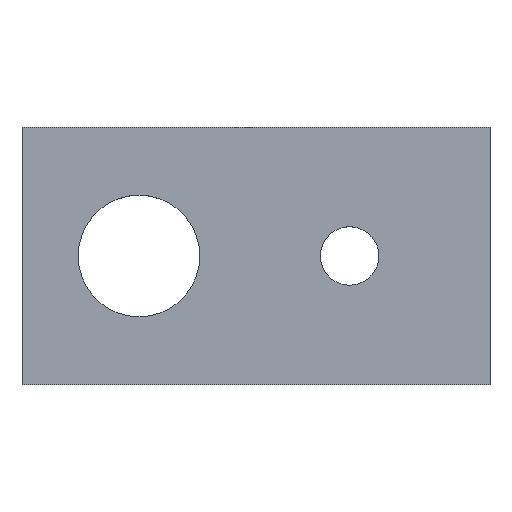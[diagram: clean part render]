
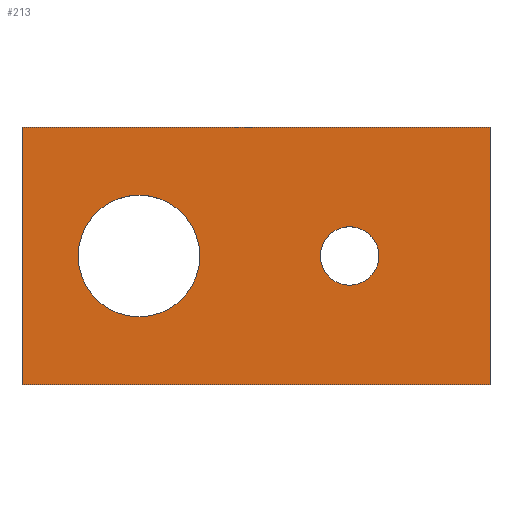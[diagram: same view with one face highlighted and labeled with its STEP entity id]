
A CAD part, top view. The second image highlights one B-rep face of the part: STEP entity #213.
In plain terms, the highlighted planar face has unit normal (0, 0, 1).
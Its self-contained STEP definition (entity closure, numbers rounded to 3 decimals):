
#24 = VERTEX_POINT('',#25);
#25 = CARTESIAN_POINT('',(0.,0.,3.));
#32 = PLANE('',#33);
#33 = AXIS2_PLACEMENT_3D('',#34,#35,#36);
#34 = CARTESIAN_POINT('',(0.,0.,0.));
#35 = DIRECTION('',(1.,0.,-0.));
#36 = DIRECTION('',(0.,0.,1.));
#44 = PLANE('',#45);
#45 = AXIS2_PLACEMENT_3D('',#46,#47,#48);
#46 = CARTESIAN_POINT('',(0.,0.,0.));
#47 = DIRECTION('',(-0.,1.,0.));
#48 = DIRECTION('',(0.,0.,1.));
#85 = VERTEX_POINT('',#86);
#86 = CARTESIAN_POINT('',(0.,22.,3.));
#100 = PLANE('',#101);
#101 = AXIS2_PLACEMENT_3D('',#102,#103,#104);
#102 = CARTESIAN_POINT('',(0.,22.,0.));
#103 = DIRECTION('',(-0.,1.,0.));
#104 = DIRECTION('',(0.,0.,1.));
#112 = EDGE_CURVE('',#24,#85,#113,.T.);
#113 = SURFACE_CURVE('',#114,(#118,#125),.PCURVE_S1.);
#114 = LINE('',#115,#116);
#115 = CARTESIAN_POINT('',(0.,0.,3.));
#116 = VECTOR('',#117,1.);
#117 = DIRECTION('',(-0.,1.,0.));
#118 = PCURVE('',#32,#119);
#119 = DEFINITIONAL_REPRESENTATION('',(#120),#124);
#120 = LINE('',#121,#122);
#121 = CARTESIAN_POINT('',(3.,0.));
#122 = VECTOR('',#123,1.);
#123 = DIRECTION('',(0.,-1.));
#124 = ( GEOMETRIC_REPRESENTATION_CONTEXT(2)
PARAMETRIC_REPRESENTATION_CONTEXT() REPRESENTATION_CONTEXT('2D SPACE',''
  ) );
#125 = PCURVE('',#126,#131);
#126 = PLANE('',#127);
#127 = AXIS2_PLACEMENT_3D('',#128,#129,#130);
#128 = CARTESIAN_POINT('',(0.,0.,3.));
#129 = DIRECTION('',(0.,0.,1.));
#130 = DIRECTION('',(1.,0.,-0.));
#131 = DEFINITIONAL_REPRESENTATION('',(#132),#136);
#132 = LINE('',#133,#134);
#133 = CARTESIAN_POINT('',(0.,0.));
#134 = VECTOR('',#135,1.);
#135 = DIRECTION('',(0.,1.));
#136 = ( GEOMETRIC_REPRESENTATION_CONTEXT(2)
PARAMETRIC_REPRESENTATION_CONTEXT() REPRESENTATION_CONTEXT('2D SPACE',''
  ) );
#165 = EDGE_CURVE('',#24,#166,#168,.T.);
#166 = VERTEX_POINT('',#167);
#167 = CARTESIAN_POINT('',(40.,0.,3.));
#168 = SURFACE_CURVE('',#169,(#173,#180),.PCURVE_S1.);
#169 = LINE('',#170,#171);
#170 = CARTESIAN_POINT('',(0.,0.,3.));
#171 = VECTOR('',#172,1.);
#172 = DIRECTION('',(1.,0.,-0.));
#173 = PCURVE('',#44,#174);
#174 = DEFINITIONAL_REPRESENTATION('',(#175),#179);
#175 = LINE('',#176,#177);
#176 = CARTESIAN_POINT('',(3.,0.));
#177 = VECTOR('',#178,1.);
#178 = DIRECTION('',(0.,1.));
#179 = ( GEOMETRIC_REPRESENTATION_CONTEXT(2)
PARAMETRIC_REPRESENTATION_CONTEXT() REPRESENTATION_CONTEXT('2D SPACE',''
  ) );
#180 = PCURVE('',#126,#181);
#181 = DEFINITIONAL_REPRESENTATION('',(#182),#186);
#182 = LINE('',#183,#184);
#183 = CARTESIAN_POINT('',(0.,0.));
#184 = VECTOR('',#185,1.);
#185 = DIRECTION('',(1.,0.));
#186 = ( GEOMETRIC_REPRESENTATION_CONTEXT(2)
PARAMETRIC_REPRESENTATION_CONTEXT() REPRESENTATION_CONTEXT('2D SPACE',''
  ) );
#202 = PLANE('',#203);
#203 = AXIS2_PLACEMENT_3D('',#204,#205,#206);
#204 = CARTESIAN_POINT('',(40.,0.,0.));
#205 = DIRECTION('',(1.,0.,-0.));
#206 = DIRECTION('',(0.,0.,1.));
#213 = ADVANCED_FACE('',(#214,#262,#293),#126,.T.);
#214 = FACE_BOUND('',#215,.T.);
#215 = EDGE_LOOP('',(#216,#217,#218,#241));
#216 = ORIENTED_EDGE('',*,*,#112,.F.);
#217 = ORIENTED_EDGE('',*,*,#165,.T.);
#218 = ORIENTED_EDGE('',*,*,#219,.T.);
#219 = EDGE_CURVE('',#166,#220,#222,.T.);
#220 = VERTEX_POINT('',#221);
#221 = CARTESIAN_POINT('',(40.,22.,3.));
#222 = SURFACE_CURVE('',#223,(#227,#234),.PCURVE_S1.);
#223 = LINE('',#224,#225);
#224 = CARTESIAN_POINT('',(40.,0.,3.));
#225 = VECTOR('',#226,1.);
#226 = DIRECTION('',(-0.,1.,0.));
#227 = PCURVE('',#126,#228);
#228 = DEFINITIONAL_REPRESENTATION('',(#229),#233);
#229 = LINE('',#230,#231);
#230 = CARTESIAN_POINT('',(40.,0.));
#231 = VECTOR('',#232,1.);
#232 = DIRECTION('',(0.,1.));
#233 = ( GEOMETRIC_REPRESENTATION_CONTEXT(2)
PARAMETRIC_REPRESENTATION_CONTEXT() REPRESENTATION_CONTEXT('2D SPACE',''
  ) );
#234 = PCURVE('',#202,#235);
#235 = DEFINITIONAL_REPRESENTATION('',(#236),#240);
#236 = LINE('',#237,#238);
#237 = CARTESIAN_POINT('',(3.,0.));
#238 = VECTOR('',#239,1.);
#239 = DIRECTION('',(0.,-1.));
#240 = ( GEOMETRIC_REPRESENTATION_CONTEXT(2)
PARAMETRIC_REPRESENTATION_CONTEXT() REPRESENTATION_CONTEXT('2D SPACE',''
  ) );
#241 = ORIENTED_EDGE('',*,*,#242,.F.);
#242 = EDGE_CURVE('',#85,#220,#243,.T.);
#243 = SURFACE_CURVE('',#244,(#248,#255),.PCURVE_S1.);
#244 = LINE('',#245,#246);
#245 = CARTESIAN_POINT('',(0.,22.,3.));
#246 = VECTOR('',#247,1.);
#247 = DIRECTION('',(1.,0.,-0.));
#248 = PCURVE('',#126,#249);
#249 = DEFINITIONAL_REPRESENTATION('',(#250),#254);
#250 = LINE('',#251,#252);
#251 = CARTESIAN_POINT('',(0.,22.));
#252 = VECTOR('',#253,1.);
#253 = DIRECTION('',(1.,0.));
#254 = ( GEOMETRIC_REPRESENTATION_CONTEXT(2)
PARAMETRIC_REPRESENTATION_CONTEXT() REPRESENTATION_CONTEXT('2D SPACE',''
  ) );
#255 = PCURVE('',#100,#256);
#256 = DEFINITIONAL_REPRESENTATION('',(#257),#261);
#257 = LINE('',#258,#259);
#258 = CARTESIAN_POINT('',(3.,0.));
#259 = VECTOR('',#260,1.);
#260 = DIRECTION('',(0.,1.));
#261 = ( GEOMETRIC_REPRESENTATION_CONTEXT(2)
PARAMETRIC_REPRESENTATION_CONTEXT() REPRESENTATION_CONTEXT('2D SPACE',''
  ) );
#262 = FACE_BOUND('',#263,.T.);
#263 = EDGE_LOOP('',(#264));
#264 = ORIENTED_EDGE('',*,*,#265,.F.);
#265 = EDGE_CURVE('',#266,#266,#268,.T.);
#266 = VERTEX_POINT('',#267);
#267 = CARTESIAN_POINT('',(15.2,11.,3.));
#268 = SURFACE_CURVE('',#269,(#274,#281),.PCURVE_S1.);
#269 = CIRCLE('',#270,5.2);
#270 = AXIS2_PLACEMENT_3D('',#271,#272,#273);
#271 = CARTESIAN_POINT('',(10.,11.,3.));
#272 = DIRECTION('',(0.,0.,1.));
#273 = DIRECTION('',(1.,0.,-0.));
#274 = PCURVE('',#126,#275);
#275 = DEFINITIONAL_REPRESENTATION('',(#276),#280);
#276 = CIRCLE('',#277,5.2);
#277 = AXIS2_PLACEMENT_2D('',#278,#279);
#278 = CARTESIAN_POINT('',(10.,11.));
#279 = DIRECTION('',(1.,0.));
#280 = ( GEOMETRIC_REPRESENTATION_CONTEXT(2)
PARAMETRIC_REPRESENTATION_CONTEXT() REPRESENTATION_CONTEXT('2D SPACE',''
  ) );
#281 = PCURVE('',#282,#287);
#282 = CYLINDRICAL_SURFACE('',#283,5.2);
#283 = AXIS2_PLACEMENT_3D('',#284,#285,#286);
#284 = CARTESIAN_POINT('',(10.,11.,-1.));
#285 = DIRECTION('',(0.,0.,1.));
#286 = DIRECTION('',(1.,0.,-0.));
#287 = DEFINITIONAL_REPRESENTATION('',(#288),#292);
#288 = LINE('',#289,#290);
#289 = CARTESIAN_POINT('',(0.,4.));
#290 = VECTOR('',#291,1.);
#291 = DIRECTION('',(1.,0.));
#292 = ( GEOMETRIC_REPRESENTATION_CONTEXT(2)
PARAMETRIC_REPRESENTATION_CONTEXT() REPRESENTATION_CONTEXT('2D SPACE',''
  ) );
#293 = FACE_BOUND('',#294,.T.);
#294 = EDGE_LOOP('',(#295));
#295 = ORIENTED_EDGE('',*,*,#296,.F.);
#296 = EDGE_CURVE('',#297,#297,#299,.T.);
#297 = VERTEX_POINT('',#298);
#298 = CARTESIAN_POINT('',(30.5,11.,3.));
#299 = SURFACE_CURVE('',#300,(#305,#312),.PCURVE_S1.);
#300 = CIRCLE('',#301,2.5);
#301 = AXIS2_PLACEMENT_3D('',#302,#303,#304);
#302 = CARTESIAN_POINT('',(28.,11.,3.));
#303 = DIRECTION('',(0.,0.,1.));
#304 = DIRECTION('',(1.,0.,-0.));
#305 = PCURVE('',#126,#306);
#306 = DEFINITIONAL_REPRESENTATION('',(#307),#311);
#307 = CIRCLE('',#308,2.5);
#308 = AXIS2_PLACEMENT_2D('',#309,#310);
#309 = CARTESIAN_POINT('',(28.,11.));
#310 = DIRECTION('',(1.,0.));
#311 = ( GEOMETRIC_REPRESENTATION_CONTEXT(2)
PARAMETRIC_REPRESENTATION_CONTEXT() REPRESENTATION_CONTEXT('2D SPACE',''
  ) );
#312 = PCURVE('',#313,#318);
#313 = CYLINDRICAL_SURFACE('',#314,2.5);
#314 = AXIS2_PLACEMENT_3D('',#315,#316,#317);
#315 = CARTESIAN_POINT('',(28.,11.,-1.));
#316 = DIRECTION('',(0.,0.,1.));
#317 = DIRECTION('',(1.,0.,-0.));
#318 = DEFINITIONAL_REPRESENTATION('',(#319),#323);
#319 = LINE('',#320,#321);
#320 = CARTESIAN_POINT('',(0.,4.));
#321 = VECTOR('',#322,1.);
#322 = DIRECTION('',(1.,0.));
#323 = ( GEOMETRIC_REPRESENTATION_CONTEXT(2)
PARAMETRIC_REPRESENTATION_CONTEXT() REPRESENTATION_CONTEXT('2D SPACE',''
  ) );
